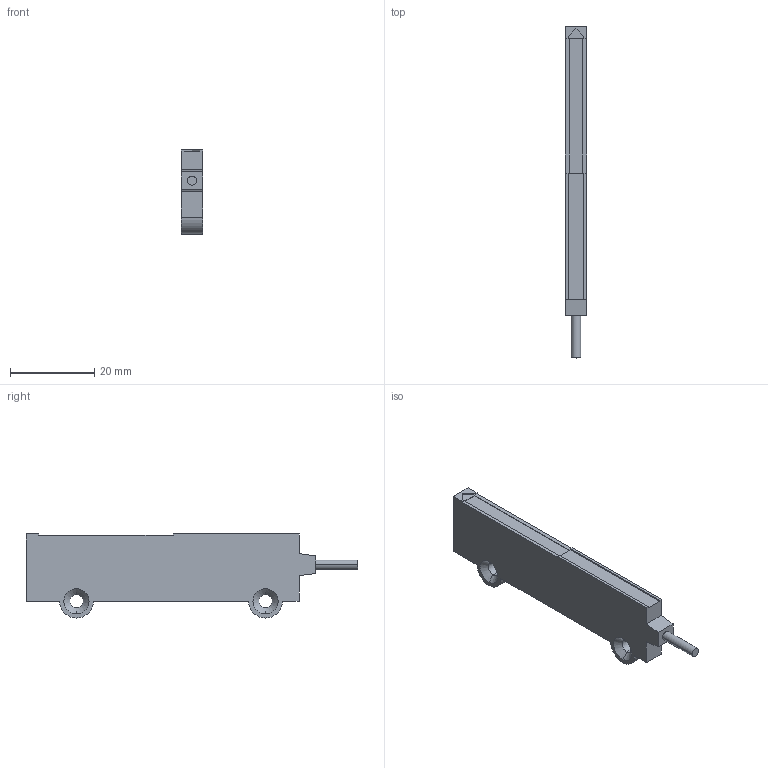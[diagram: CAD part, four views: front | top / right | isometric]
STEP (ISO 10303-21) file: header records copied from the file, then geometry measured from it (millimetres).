
FILE_DESCRIPTION (( 'STEP AP203' ), '1' );
FILE_NAME ('FT-A30.STEP', '2006-01-30T00:20:46', ( 'MF1158' ), ( 'sunx' ), 'SwSTEP 2.0', 'SolidWorks 2005235', '' );
FILE_SCHEMA (( 'CONFIG_CONTROL_DESIGN' ));
Length unit declared in the file: millimetre
Products named in the file (1): FT-A30
Bounding box: 5 x 79 x 20 mm (x, y, z)
Volume: 5357.9 mm3; surface area: 3231.1 mm2
Topology: 1 solids, 1 shells, 49 faces, 127 edges, 82 vertices
Faces by surface type: plane 31, cylinder 10, cone 8
Entity records: 1570 total; most frequent: CARTESIAN_POINT 259, DIRECTION 255, ORIENTED_EDGE 254, EDGE_CURVE 127, VECTOR 99, LINE 99, VERTEX_POINT 82, AXIS2_PLACEMENT_3D 78
